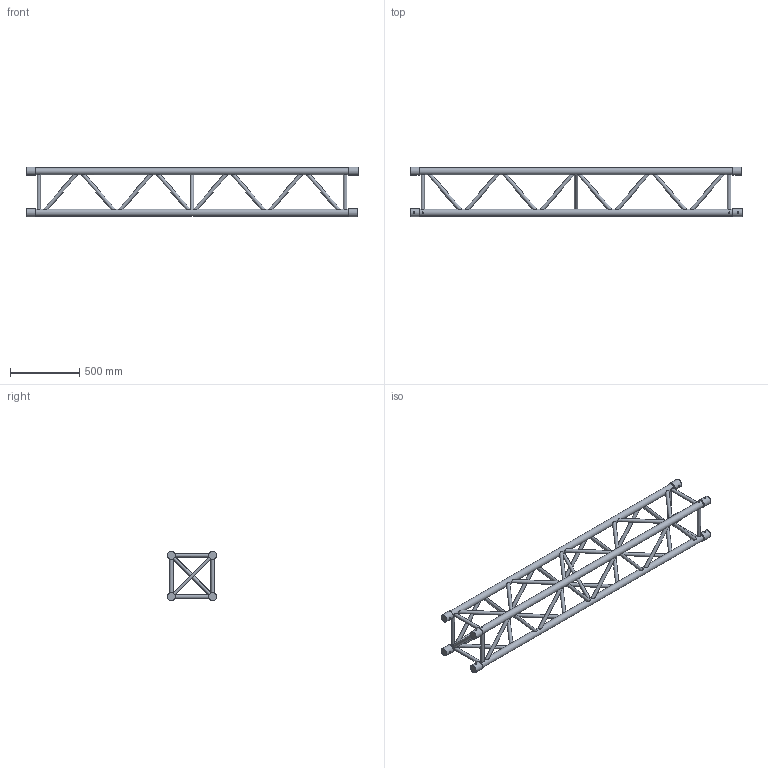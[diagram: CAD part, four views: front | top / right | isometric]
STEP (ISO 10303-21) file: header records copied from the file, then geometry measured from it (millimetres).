
FILE_DESCRIPTION(/* description */ (''),/* implementation_level */ '2;1');
FILE_NAME(/* name */ 'C:\Users\adrian.toca\Desktop\111110068.stp',/* time_stamp */ '2016-09-09T14:44:02+03:00',/* author */ ('adrian.toca'),/* organization */ (''),/* preprocessor_version */ 'ST-DEVELOPER v15.6',/* originating_system */ 'Autodesk Inventor 2015',/* authorisation */ '');
FILE_SCHEMA (('AUTOMOTIVE_DESIGN { 1 0 10303 214 3 1 1 }'));
Length unit declared in the file: millimetre
Products named in the file (1): 260030886
Bounding box: 2400 x 357.8 x 357.8 mm (x, y, z)
Volume: 25840131.2 mm3; surface area: 2662936.4 mm2
Topology: 5 solids, 7 shells, 206 faces, 546 edges, 350 vertices
Faces by surface type: cylinder 122, plane 76, cone 8
Full cylindrical faces by diameter (mm): 10 x8, 19 x1, 25 x43, 50 x4, 58.8 x8
Entity records: 8925 total; most frequent: CARTESIAN_POINT 4801, ORIENTED_EDGE 720, DIRECTION 710, EDGE_LOOP 380, AXIS2_PLACEMENT_3D 333, EDGE_CURVE 332, VERTEX_POINT 248, FACE_BOUND 200
